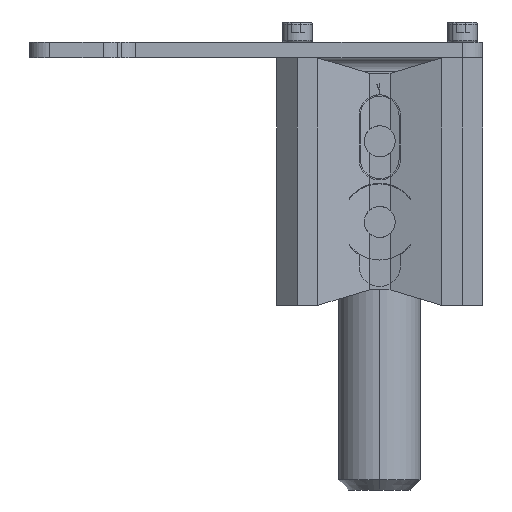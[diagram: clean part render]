
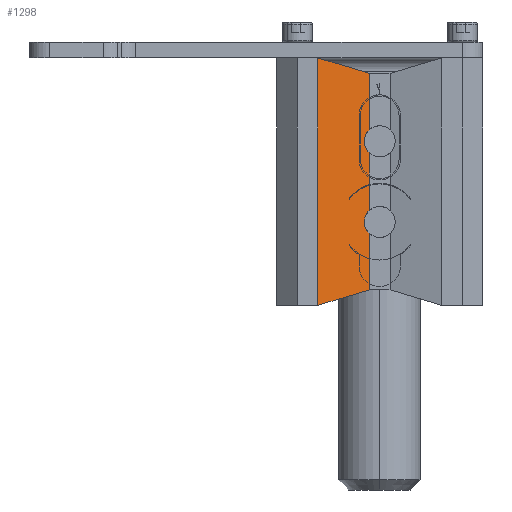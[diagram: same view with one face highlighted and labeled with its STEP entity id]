
A CAD part, front view. The second image highlights one B-rep face of the part: STEP entity #1298.
In plain terms, the highlighted planar face has unit normal (0.287, -0.958, 0).
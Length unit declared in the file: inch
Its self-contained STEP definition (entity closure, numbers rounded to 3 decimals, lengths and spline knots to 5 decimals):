
#46 = EDGE_CURVE ( 'NONE', #21433, #23684, #29051, .T. ) ;
#164 = VERTEX_POINT ( 'NONE', #14962 ) ;
#327 = ORIENTED_EDGE ( 'NONE', *, *, #17518, .T. ) ;
#720 = DIRECTION ( 'NONE',  ( -0.958, -0.287, 0. ) ) ;
#1298 = ADVANCED_FACE ( 'NONE', ( #33410 ), #28956, .F. ) ;
#1764 = ORIENTED_EDGE ( 'NONE', *, *, #2639, .F. ) ;
#2262 = CARTESIAN_POINT ( 'NONE',  ( -0.21429, 0.16071, 0.42936 ) ) ;
#2349 = LINE ( 'NONE', #28759, #26756 ) ;
#2639 = EDGE_CURVE ( 'NONE', #23835, #164, #15066, .T. ) ;
#2694 = LINE ( 'NONE', #24187, #22657 ) ;
#3884 = CARTESIAN_POINT ( 'NONE',  ( -0.125, 0.1875, -0.3495 ) ) ;
#4005 = ORIENTED_EDGE ( 'NONE', *, *, #13024, .T. ) ;
#4111 = LINE ( 'NONE', #13367, #22840 ) ;
#6048 = ORIENTED_EDGE ( 'NONE', *, *, #10894, .T. ) ;
#6254 = VERTEX_POINT ( 'NONE', #12711 ) ;
#6522 = ORIENTED_EDGE ( 'NONE', *, *, #25613, .T. ) ;
#7520 = EDGE_LOOP ( 'NONE', ( #4005, #6522, #6048, #327, #1764, #19822, #24459, #30218 ) ) ;
#8368 = DIRECTION ( 'NONE',  ( -0.287, 0.958, 0. ) ) ;
#8920 = DIRECTION ( 'NONE',  ( 0., 0., 1. ) ) ;
#9738 = CARTESIAN_POINT ( 'NONE',  ( -0.125, 0.1875, -1.5 ) ) ;
#10851 = DIRECTION ( 'NONE',  ( 0., 0., 1. ) ) ;
#10894 = EDGE_CURVE ( 'NONE', #21369, #16262, #4111, .T. ) ;
#11114 = CARTESIAN_POINT ( 'NONE',  ( -0.75, 0., -1.5 ) ) ;
#11762 = LINE ( 'NONE', #24138, #17027 ) ;
#12611 = EDGE_CURVE ( 'NONE', #25678, #23835, #2349, .T. ) ;
#12711 = CARTESIAN_POINT ( 'NONE',  ( -0.125, 0.1875, 0.3495 ) ) ;
#12913 = CARTESIAN_POINT ( 'NONE',  ( -0.21429, 0.16071, 0.54914 ) ) ;
#13021 = CARTESIAN_POINT ( 'NONE',  ( -0.125, 0.1875, 0.3495 ) ) ;
#13024 = EDGE_CURVE ( 'NONE', #23684, #6254, #31289, .T. ) ;
#13367 = CARTESIAN_POINT ( 'NONE',  ( -0.125, 0.1875, -1.5 ) ) ;
#14962 = CARTESIAN_POINT ( 'NONE',  ( -0.75, 0., 1.5 ) ) ;
#15066 = LINE ( 'NONE', #19301, #19539 ) ;
#16262 = VERTEX_POINT ( 'NONE', #31162 ) ;
#17027 = VECTOR ( 'NONE', #26834, 39.37008 ) ;
#17518 = EDGE_CURVE ( 'NONE', #16262, #164, #11762, .T. ) ;
#17692 = AXIS2_PLACEMENT_3D ( 'NONE', #11114, #8368, #720 ) ;
#18873 = CARTESIAN_POINT ( 'NONE',  ( -0.125, 0.1875, 0.629 ) ) ;
#19301 = CARTESIAN_POINT ( 'NONE',  ( -0.75, 0., -1.5 ) ) ;
#19539 = VECTOR ( 'NONE', #8920, 39.37008 ) ;
#19822 = ORIENTED_EDGE ( 'NONE', *, *, #12611, .F. ) ;
#20140 =( BOUNDED_CURVE ( )  B_SPLINE_CURVE ( 3, ( #13021, #2262, #12913, #23989 ),
 .UNSPECIFIED., .F., .T. ) 
 B_SPLINE_CURVE_WITH_KNOTS ( ( 4, 4 ),
 ( 2.30052, 3.98266 ),
 .UNSPECIFIED. ) 
 CURVE ( )  GEOMETRIC_REPRESENTATION_ITEM ( )  RATIONAL_B_SPLINE_CURVE ( ( 1., 0.778, 0.778, 1. ) ) 
 REPRESENTATION_ITEM ( '' )  );
#21353 = EDGE_CURVE ( 'NONE', #25678, #21433, #2694, .T. ) ;
#21369 = VERTEX_POINT ( 'NONE', #18873 ) ;
#21433 = VERTEX_POINT ( 'NONE', #32039 ) ;
#22657 = VECTOR ( 'NONE', #24412, 39.37008 ) ;
#22840 = VECTOR ( 'NONE', #10851, 39.37008 ) ;
#23550 = VECTOR ( 'NONE', #30421, 39.37008 ) ;
#23684 = VERTEX_POINT ( 'NONE', #24471 ) ;
#23835 = VERTEX_POINT ( 'NONE', #33145 ) ;
#23989 = CARTESIAN_POINT ( 'NONE',  ( -0.125, 0.1875, 0.629 ) ) ;
#24138 = CARTESIAN_POINT ( 'NONE',  ( -0.75, 0., 1.5 ) ) ;
#24187 = CARTESIAN_POINT ( 'NONE',  ( -0.125, 0.1875, -1.5 ) ) ;
#24412 = DIRECTION ( 'NONE',  ( 0., 0., 1. ) ) ;
#24459 = ORIENTED_EDGE ( 'NONE', *, *, #21353, .T. ) ;
#24471 = CARTESIAN_POINT ( 'NONE',  ( -0.125, 0.1875, -0.3495 ) ) ;
#25613 = EDGE_CURVE ( 'NONE', #6254, #21369, #20140, .T. ) ;
#25678 = VERTEX_POINT ( 'NONE', #31044 ) ;
#26450 = DIRECTION ( 'NONE',  ( -0.921, -0.276, -0.276 ) ) ;
#26756 = VECTOR ( 'NONE', #26450, 39.37008 ) ;
#26834 = DIRECTION ( 'NONE',  ( -0.921, -0.276, 0.276 ) ) ;
#28759 = CARTESIAN_POINT ( 'NONE',  ( -0.75, 0., -1.5 ) ) ;
#28956 = PLANE ( 'NONE',  #17692 ) ;
#29051 =( BOUNDED_CURVE ( )  B_SPLINE_CURVE ( 3, ( #29592, #32340, #32223, #3884 ),
 .UNSPECIFIED., .F., .T. ) 
 B_SPLINE_CURVE_WITH_KNOTS ( ( 4, 4 ),
 ( 2.30052, 3.98266 ),
 .UNSPECIFIED. ) 
 CURVE ( )  GEOMETRIC_REPRESENTATION_ITEM ( )  RATIONAL_B_SPLINE_CURVE ( ( 1., 0.778, 0.778, 1. ) ) 
 REPRESENTATION_ITEM ( '' )  );
#29592 = CARTESIAN_POINT ( 'NONE',  ( -0.125, 0.1875, -0.629 ) ) ;
#30218 = ORIENTED_EDGE ( 'NONE', *, *, #46, .T. ) ;
#30421 = DIRECTION ( 'NONE',  ( 0., 0., 1. ) ) ;
#31044 = CARTESIAN_POINT ( 'NONE',  ( -0.125, 0.1875, -1.3125 ) ) ;
#31162 = CARTESIAN_POINT ( 'NONE',  ( -0.125, 0.1875, 1.3125 ) ) ;
#31289 = LINE ( 'NONE', #9738, #23550 ) ;
#32039 = CARTESIAN_POINT ( 'NONE',  ( -0.125, 0.1875, -0.629 ) ) ;
#32223 = CARTESIAN_POINT ( 'NONE',  ( -0.21429, 0.16071, -0.42936 ) ) ;
#32340 = CARTESIAN_POINT ( 'NONE',  ( -0.21429, 0.16071, -0.54914 ) ) ;
#33145 = CARTESIAN_POINT ( 'NONE',  ( -0.75, 0., -1.5 ) ) ;
#33410 = FACE_OUTER_BOUND ( 'NONE', #7520, .T. ) ;
